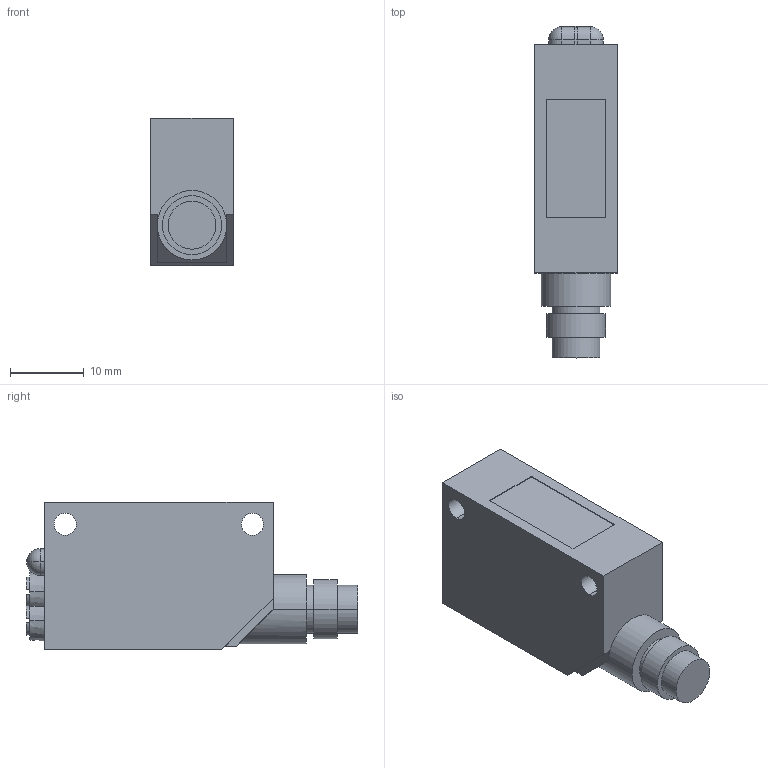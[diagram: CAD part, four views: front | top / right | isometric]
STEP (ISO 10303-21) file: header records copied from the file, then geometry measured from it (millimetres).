
FILE_DESCRIPTION (( 'STEP AP203' ), '1' );
FILE_NAME ('CX-491-Z.STEP', '2005-09-05T02:43:48', ( '川島良英' ), ( ' ' ), 'SwSTEP 2.0', 'SolidWorks 2004251', '' );
FILE_SCHEMA (( 'CONFIG_CONTROL_DESIGN' ));
Length unit declared in the file: millimetre
Products named in the file (1): CX-491-Z
Bounding box: 11.2 x 45 x 20 mm (x, y, z)
Volume: 7386.7 mm3; surface area: 2942.7 mm2
Topology: 1 solids, 1 shells, 72 faces, 178 edges, 112 vertices
Faces by surface type: plane 35, cylinder 27, cone 6, sphere 4
Entity records: 2220 total; most frequent: CARTESIAN_POINT 405, DIRECTION 378, ORIENTED_EDGE 348, EDGE_CURVE 174, AXIS2_PLACEMENT_3D 141, VERTEX_POINT 112, VECTOR 96, LINE 96
